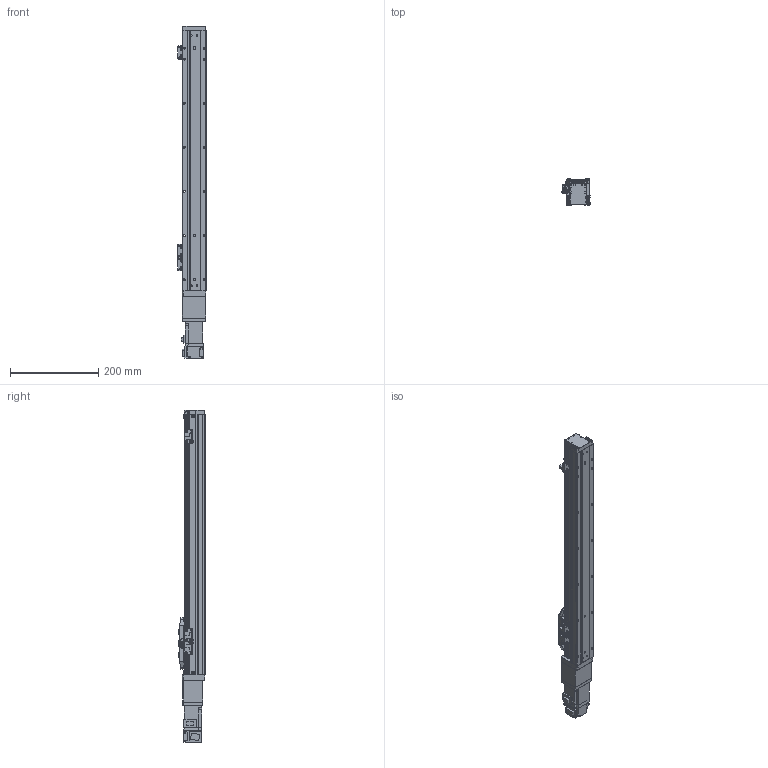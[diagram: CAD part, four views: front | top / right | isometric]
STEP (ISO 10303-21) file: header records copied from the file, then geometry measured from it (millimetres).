
FILE_DESCRIPTION (( 'STEP AP203' ), '1' );
FILE_NAME ('GTH5-450-BC-M10-C4.step', '2022-09-23T00:40:05', ( '微软用户' ), ( '微软中国' ), 'SwSTEP 2.0', 'SolidWorks 2020', '' );
FILE_SCHEMA (( 'CONFIG_CONTROL_DESIGN' ));
Length unit declared in the file: millimetre
Products named in the file (20): GTH5-450-BC-M10-C4; GTH50-003; GTH50-028; GTH50-006; GTH50-013; GTH50-022-1; GTH50-004; GTH50-023; CTHA60-027; GBT 70.3-M3℅6; GBT 70.1-M3℅6; CTHA60-013; BTH-M3X5X6; GBT96.1-2002 3×0.8; CTHA60-006-2_CTHA60-006-1; GTH50-001_450; GTH50-024; HG-KR13; GBT 70.1-M4×16; GBT 70.1-M2.5×6
Assembly tree (60 placements, depth 2):
  GTH5-450-BC-M10-C4
    GTH50-006
    GTH50-004
    GBT 70.3-M3℅6  x6
    BTH-M3X5X6  x8
    GTH50-001_450
    GBT 70.1-M4×16  x8
    GTH50-003
    GTH50-013
    GTH50-023  x3
    GBT 70.1-M3℅6  x12
    GBT96.1-2002 3×0.8  x6
    GTH50-024  x3
    GBT 70.1-M2.5×6  x2
    GTH50-028  x2
    GTH50-022-1
    CTHA60-027
    CTHA60-013
    CTHA60-006-2_CTHA60-006-1
    HG-KR13
Bounding box: 63.8 x 60 x 752.6 mm (x, y, z)
Volume: 1566666 mm3; surface area: 260658.3 mm2
Topology: 62 solids, 62 shells, 2049 faces, 4704 edges, 2870 vertices
Faces by surface type: plane 1105, cylinder 543, cone 235, torus 158, sphere 8
Entity records: 34107 total; most frequent: DIRECTION 5507, CARTESIAN_POINT 5391, ORIENTED_EDGE 5094, EDGE_CURVE 2547, AXIS2_PLACEMENT_3D 1892, VECTOR 1723, LINE 1723, VERTEX_POINT 1610
